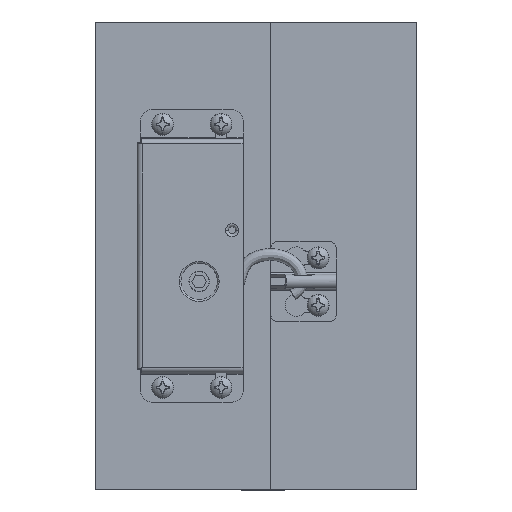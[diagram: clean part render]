
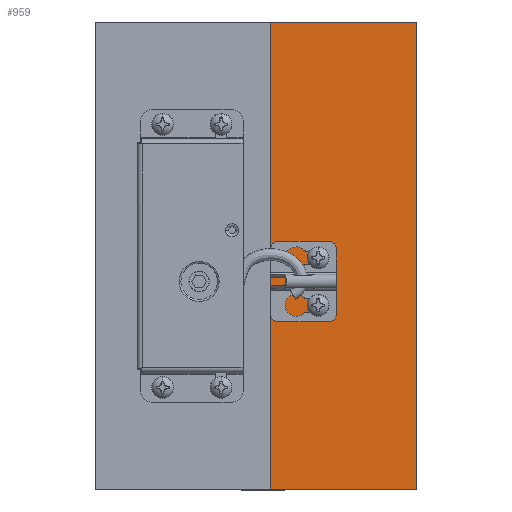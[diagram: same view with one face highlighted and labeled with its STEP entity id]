
A CAD part, top view. The second image highlights one B-rep face of the part: STEP entity #959.
In plain terms, the highlighted planar face has unit normal (0, 0, 1).
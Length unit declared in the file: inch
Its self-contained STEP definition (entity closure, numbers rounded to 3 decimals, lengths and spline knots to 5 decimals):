
#908 = VERTEX_POINT ( 'NONE', #23284 ) ;
#922 = VERTEX_POINT ( 'NONE', #23321 ) ;
#925 = EDGE_CURVE ( 'NONE', #934, #926, #23315, .T. ) ;
#926 = VERTEX_POINT ( 'NONE', #23320 ) ;
#934 = VERTEX_POINT ( 'NONE', #23326 ) ;
#954 = EDGE_CURVE ( 'NONE', #908, #934, #23347, .T. ) ;
#959 = ADVANCED_FACE ( 'NONE', ( #22606 ), #23399, .T. ) ;
#965 = EDGE_LOOP ( 'NONE', ( #14545, #1406, #1405, #37349 ) ) ;
#966 = EDGE_CURVE ( 'NONE', #922, #908, #23382, .T. ) ;
#972 = EDGE_CURVE ( 'NONE', #926, #922, #23417, .T. ) ;
#1405 = ORIENTED_EDGE ( 'NONE', *, *, #966, .T. ) ;
#1406 = ORIENTED_EDGE ( 'NONE', *, *, #972, .T. ) ;
#14545 = ORIENTED_EDGE ( 'NONE', *, *, #925, .T. ) ;
#22606 = FACE_OUTER_BOUND ( 'NONE', #965, .T. ) ;
#23284 = CARTESIAN_POINT ( 'NONE',  ( 1.5, 4., 1. ) ) ;
#23313 = DIRECTION ( 'NONE',  ( 0., -1., 0. ) ) ;
#23314 = VECTOR ( 'NONE', #23313, 39.37008 ) ;
#23315 = LINE ( 'NONE', #23325, #23314 ) ;
#23320 = CARTESIAN_POINT ( 'NONE',  ( -1.5, -4., 1. ) ) ;
#23321 = CARTESIAN_POINT ( 'NONE',  ( 1.5, -4., 1. ) ) ;
#23325 = CARTESIAN_POINT ( 'NONE',  ( -1.5, 4., 1. ) ) ;
#23326 = CARTESIAN_POINT ( 'NONE',  ( -1.5, 4., 1. ) ) ;
#23344 = DIRECTION ( 'NONE',  ( -1., 0., 0. ) ) ;
#23345 = VECTOR ( 'NONE', #23344, 39.37008 ) ;
#23346 = CARTESIAN_POINT ( 'NONE',  ( -1.5, 4., 1. ) ) ;
#23347 = LINE ( 'NONE', #23346, #23345 ) ;
#23378 = DIRECTION ( 'NONE',  ( 0., 1., 0. ) ) ;
#23380 = VECTOR ( 'NONE', #23378, 39.37008 ) ;
#23381 = CARTESIAN_POINT ( 'NONE',  ( 1.5, 4., 1. ) ) ;
#23382 = LINE ( 'NONE', #23381, #23380 ) ;
#23395 = DIRECTION ( 'NONE',  ( 1., 0., 0. ) ) ;
#23396 = DIRECTION ( 'NONE',  ( 0., 0., 1. ) ) ;
#23397 = CARTESIAN_POINT ( 'NONE',  ( -1.5, -4., 1. ) ) ;
#23398 = AXIS2_PLACEMENT_3D ( 'NONE', #23397, #23396, #23395 ) ;
#23399 = PLANE ( 'NONE',  #23398 ) ;
#23414 = DIRECTION ( 'NONE',  ( 1., 0., 0. ) ) ;
#23415 = VECTOR ( 'NONE', #23414, 39.37008 ) ;
#23416 = CARTESIAN_POINT ( 'NONE',  ( -1.5, -4., 1. ) ) ;
#23417 = LINE ( 'NONE', #23416, #23415 ) ;
#37349 = ORIENTED_EDGE ( 'NONE', *, *, #954, .T. ) ;
